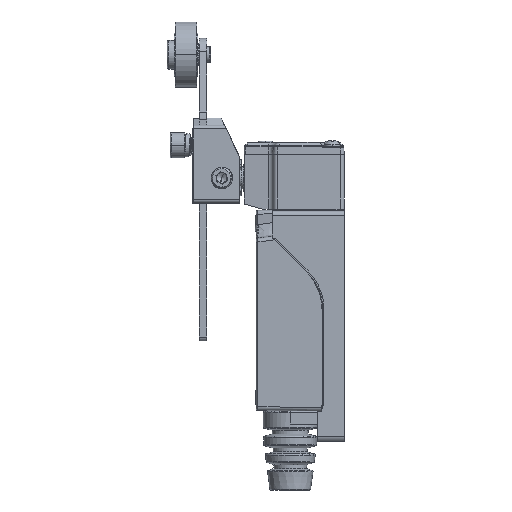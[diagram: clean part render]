
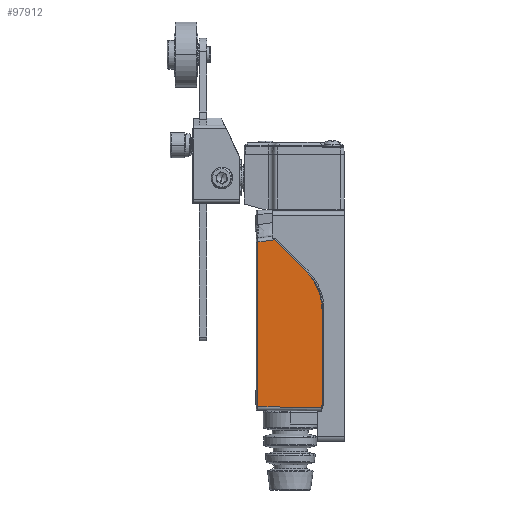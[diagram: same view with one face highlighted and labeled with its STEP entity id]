
A CAD part, left-side view. The second image highlights one B-rep face of the part: STEP entity #97912.
In plain terms, the highlighted planar face has unit normal (-1, 0.009, 0).
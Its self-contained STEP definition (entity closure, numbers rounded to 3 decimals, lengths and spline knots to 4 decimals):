
#94219=DIRECTION('',(0.,0.,-1.));
#94220=VECTOR('',#94219,1.7903);
#94221=CARTESIAN_POINT('',(-0.5549,0.9451,
-0.3571));
#94222=LINE('',#94221,#94220);
#94335=CARTESIAN_POINT('',(-0.5565,0.7698,
-0.3325));
#94351=DIRECTION('',(-0.006,-0.707,-0.707));
#94352=VECTOR('',#94351,0.4934);
#94353=CARTESIAN_POINT('',(-0.5565,0.7698,
-0.3325));
#94354=LINE('',#94353,#94352);
#94497=DIRECTION('',(-0.009,-0.99,0.139));
#94498=VECTOR('',#94497,0.1769);
#94499=CARTESIAN_POINT('',(-0.5549,0.9451,
-0.3571));
#94500=LINE('',#94499,#94498);
#94501=CARTESIAN_POINT('',(-0.5595,0.421,
-0.6814));
#94502=CARTESIAN_POINT('',(-0.56,0.3633,
-0.739));
#94503=CARTESIAN_POINT('',(-0.5607,0.2803,
-0.8677));
#94504=CARTESIAN_POINT('',(-0.561,0.248,
-1.0174));
#94505=CARTESIAN_POINT('',(-0.561,0.248,
-1.0989));
#94507=DIRECTION('',(0.009,1.,0.009));
#94508=VECTOR('',#94507,0.6971);
#94509=CARTESIAN_POINT('',(-0.561,0.248,
-2.1535));
#94510=LINE('',#94509,#94508);
#95205=DIRECTION('',(0.,0.,-1.));
#95206=VECTOR('',#95205,1.0546);
#95207=CARTESIAN_POINT('',(-0.561,0.248,
-1.0989));
#95208=LINE('',#95207,#95206);
#96457=CARTESIAN_POINT('',(-0.5549,0.9451,
-2.1475));
#96458=VERTEX_POINT('',#96457);
#96459=CARTESIAN_POINT('',(-0.5549,0.9451,
-0.3571));
#96460=VERTEX_POINT('',#96459);
#96464=VERTEX_POINT('',#94335);
#96475=CARTESIAN_POINT('',(-0.5595,0.421,
-0.6814));
#96476=VERTEX_POINT('',#96475);
#96531=CARTESIAN_POINT('',(-0.561,0.248,
-2.1535));
#96532=VERTEX_POINT('',#96531);
#96533=CARTESIAN_POINT('',(-0.561,0.248,
-1.0989));
#96534=VERTEX_POINT('',#96533);
#97897=CARTESIAN_POINT('',(-0.558,0.5965,
-1.243));
#97898=DIRECTION('',(1.,-0.009,0.));
#97899=DIRECTION('',(0.,0.,1.));
#97900=AXIS2_PLACEMENT_3D('',#97897,#97898,#97899);
#97901=PLANE('',#97900);
#97902=ORIENTED_EDGE('',*,*,#97449,.F.);
#97903=ORIENTED_EDGE('',*,*,#97684,.T.);
#97904=ORIENTED_EDGE('',*,*,#97706,.T.);
#97906=ORIENTED_EDGE('',*,*,#97905,.T.);
#97908=ORIENTED_EDGE('',*,*,#97907,.T.);
#97909=ORIENTED_EDGE('',*,*,#97889,.T.);
#97910=EDGE_LOOP('',(#97902,#97903,#97904,#97906,#97908,#97909));
#97911=FACE_OUTER_BOUND('',#97910,.F.);
#97912=ADVANCED_FACE('',(#97911),#97901,.F.);
#94506=B_SPLINE_CURVE_WITH_KNOTS('',3,(#94501,#94502,#94503,#94504,#94505),
.UNSPECIFIED.,.F.,.F.,(4,1,4),(0.,0.5,1.),.UNSPECIFIED.);
#97449=EDGE_CURVE('',#96460,#96458,#94222,.T.);
#97684=EDGE_CURVE('',#96460,#96464,#94500,.T.);
#97706=EDGE_CURVE('',#96464,#96476,#94354,.T.);
#97889=EDGE_CURVE('',#96532,#96458,#94510,.T.);
#97905=EDGE_CURVE('',#96476,#96534,#94506,.T.);
#97907=EDGE_CURVE('',#96534,#96532,#95208,.T.);
